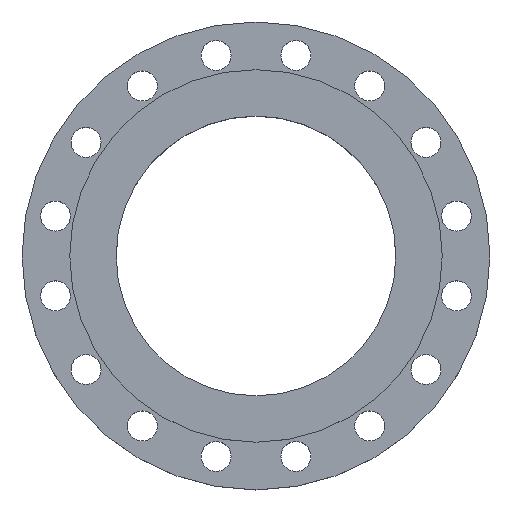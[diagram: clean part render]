
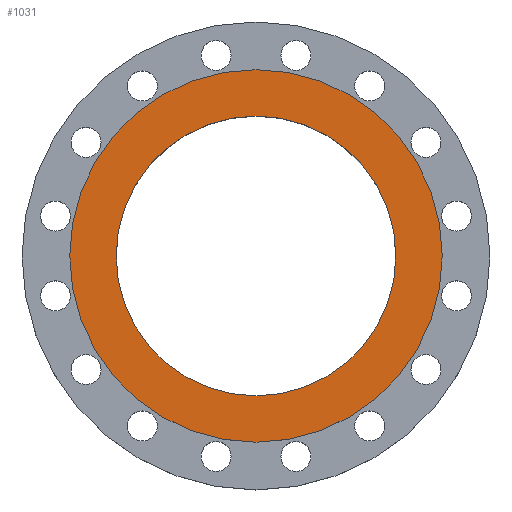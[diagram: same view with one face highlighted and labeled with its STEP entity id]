
A CAD part, top view. The second image highlights one B-rep face of the part: STEP entity #1031.
In plain terms, the highlighted planar face has unit normal (0, 0, 1).
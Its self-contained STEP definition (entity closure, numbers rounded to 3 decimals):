
#54 = AXIS2_PLACEMENT_3D ( 'NONE', #584, #581, #579 ) ;
#94 = VERTEX_POINT ( 'NONE', #1734 ) ;
#173 = EDGE_CURVE ( 'NONE', #970, #1477, #1121, .T. ) ;
#237 = VERTEX_POINT ( 'NONE', #1663 ) ;
#344 = CIRCLE ( 'NONE', #54, 153.95 ) ;
#482 = CARTESIAN_POINT ( 'NONE',  ( -205., 0., 8. ) ) ;
#531 = ORIENTED_EDGE ( 'NONE', *, *, #173, .T. ) ;
#532 = ORIENTED_EDGE ( 'NONE', *, *, #879, .T. ) ;
#536 = ORIENTED_EDGE ( 'NONE', *, *, #1316, .F. ) ;
#537 = ORIENTED_EDGE ( 'NONE', *, *, #1341, .F. ) ;
#579 = DIRECTION ( 'NONE',  ( 1., 0., 0. ) ) ;
#581 = DIRECTION ( 'NONE',  ( 0., 0., 1. ) ) ;
#584 = CARTESIAN_POINT ( 'NONE',  ( 0., 0., 8. ) ) ;
#615 = DIRECTION ( 'NONE',  ( 1., 0., 0. ) ) ;
#616 = DIRECTION ( 'NONE',  ( 0., 0., 1. ) ) ;
#618 = CARTESIAN_POINT ( 'NONE',  ( 0., 0., 8. ) ) ;
#879 = EDGE_CURVE ( 'NONE', #1477, #970, #1558, .T. ) ;
#934 = EDGE_LOOP ( 'NONE', ( #536, #537 ) ) ;
#938 = EDGE_LOOP ( 'NONE', ( #531, #532 ) ) ;
#970 = VERTEX_POINT ( 'NONE', #1178 ) ;
#995 = AXIS2_PLACEMENT_3D ( 'NONE', #1261, #1259, #1258 ) ;
#1031 = ADVANCED_FACE ( 'NONE', ( #1060, #1059 ), #1057, .T. ) ;
#1053 = DIRECTION ( 'NONE',  ( 1., 0., 0. ) ) ;
#1055 = DIRECTION ( 'NONE',  ( 0., 0., 1. ) ) ;
#1056 = CARTESIAN_POINT ( 'NONE',  ( 205., 0., 8. ) ) ;
#1057 = PLANE ( 'NONE',  #1596 ) ;
#1059 = FACE_BOUND ( 'NONE', #934, .T. ) ;
#1060 = FACE_OUTER_BOUND ( 'NONE', #938, .T. ) ;
#1121 = CIRCLE ( 'NONE', #1157, 205. ) ;
#1157 = AXIS2_PLACEMENT_3D ( 'NONE', #1693, #1692, #1691 ) ;
#1178 = CARTESIAN_POINT ( 'NONE',  ( 205., 0., 8. ) ) ;
#1258 = DIRECTION ( 'NONE',  ( 1., 0., 0. ) ) ;
#1259 = DIRECTION ( 'NONE',  ( 0., 0., 1. ) ) ;
#1261 = CARTESIAN_POINT ( 'NONE',  ( 0., 0., 8. ) ) ;
#1316 = EDGE_CURVE ( 'NONE', #237, #94, #1442, .T. ) ;
#1341 = EDGE_CURVE ( 'NONE', #94, #237, #344, .T. ) ;
#1442 = CIRCLE ( 'NONE', #1445, 153.95 ) ;
#1445 = AXIS2_PLACEMENT_3D ( 'NONE', #618, #616, #615 ) ;
#1477 = VERTEX_POINT ( 'NONE', #482 ) ;
#1558 = CIRCLE ( 'NONE', #995, 205. ) ;
#1596 = AXIS2_PLACEMENT_3D ( 'NONE', #1056, #1055, #1053 ) ;
#1663 = CARTESIAN_POINT ( 'NONE',  ( 153.95, 0., 8. ) ) ;
#1691 = DIRECTION ( 'NONE',  ( 1., 0., 0. ) ) ;
#1692 = DIRECTION ( 'NONE',  ( 0., 0., 1. ) ) ;
#1693 = CARTESIAN_POINT ( 'NONE',  ( 0., 0., 8. ) ) ;
#1734 = CARTESIAN_POINT ( 'NONE',  ( -153.95, 0., 8. ) ) ;
